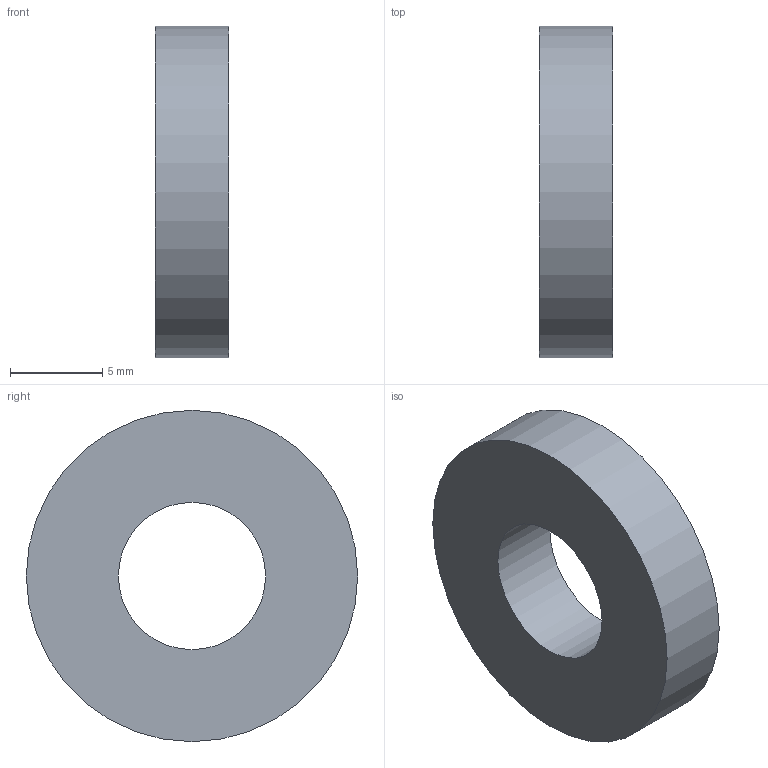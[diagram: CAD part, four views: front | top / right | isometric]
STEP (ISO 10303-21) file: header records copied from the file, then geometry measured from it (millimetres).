
FILE_DESCRIPTION(/* description */ ('STEP AP214'),/* implementation_level */ '2;1');
FILE_NAME(/* name */ 'Mounting Accessory GN 753.2-8-10-4-AO-NI',/* time_stamp */ '2024-12-09T14:01:28+01:00',/* author */ ('License CC BY-ND 4.0'),/* organization */ ('CADENAS'),/* preprocessor_version */ 'ST-DEVELOPER v19.3',/* originating_system */ 'PARTsolutions',/* authorisation */ ' ');
FILE_SCHEMA (('AUTOMOTIVE_DESIGN {1 0 10303 214 3 1 1}'));
Length unit declared in the file: millimetre
Products named in the file (1): Mounting Accessory GN 753.2-8-10-4-AO-NI
Bounding box: 4 x 18 x 18 mm (x, y, z)
Volume: 816.8 mm3; surface area: 735.1 mm2
Topology: 1 solids, 1 shells, 4 faces, 6 edges, 4 vertices
Faces by surface type: plane 2, cylinder 2
Full cylindrical faces by diameter (mm): 8 x1, 18 x1
Entity records: 118 total; most frequent: DIRECTION 18, CARTESIAN_POINT 13, AXIS2_PLACEMENT_3D 9, ORIENTED_EDGE 8, EDGE_LOOP 8, FACE_BOUND 8, EDGE_CURVE 4, VERTEX_POINT 4
